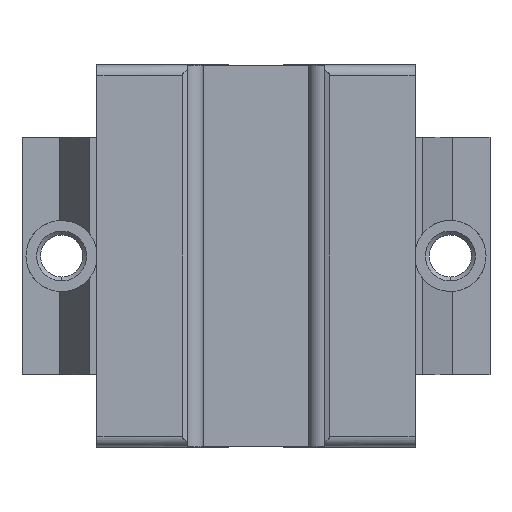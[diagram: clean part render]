
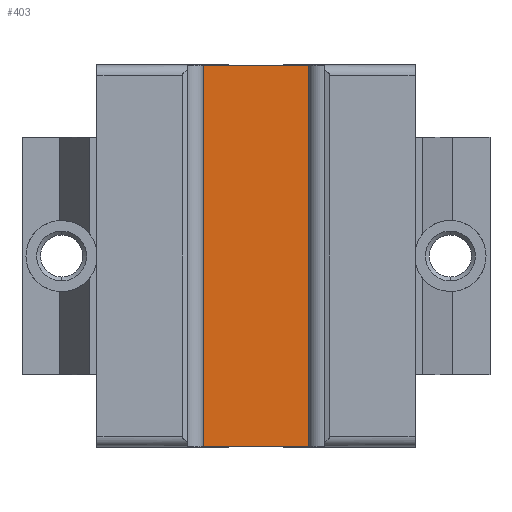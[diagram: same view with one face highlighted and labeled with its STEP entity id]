
A CAD part, front view. The second image highlights one B-rep face of the part: STEP entity #403.
In plain terms, the highlighted planar face has unit normal (0, -1, 0).
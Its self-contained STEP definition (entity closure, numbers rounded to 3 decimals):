
#336 = ORIENTED_EDGE ( 'NONE', *, *, #3145, .T. ) ;
#382 = ORIENTED_EDGE ( 'NONE', *, *, #996, .F. ) ;
#387 = EDGE_LOOP ( 'NONE', ( #394, #336, #401, #382 ) ) ;
#394 = ORIENTED_EDGE ( 'NONE', *, *, #402, .T. ) ;
#400 = EDGE_CURVE ( 'NONE', #1016, #3246, #8345, .T. ) ;
#401 = ORIENTED_EDGE ( 'NONE', *, *, #400, .F. ) ;
#402 = EDGE_CURVE ( 'NONE', #1006, #3146, #8336, .T. ) ;
#403 = ADVANCED_FACE ( 'NONE', ( #8332 ), #8330, .F. ) ;
#996 = EDGE_CURVE ( 'NONE', #1006, #1016, #7548, .T. ) ;
#1006 = VERTEX_POINT ( 'NONE', #7531 ) ;
#1016 = VERTEX_POINT ( 'NONE', #7520 ) ;
#3145 = EDGE_CURVE ( 'NONE', #3146, #3246, #4476, .T. ) ;
#3146 = VERTEX_POINT ( 'NONE', #4480 ) ;
#3246 = VERTEX_POINT ( 'NONE', #4793 ) ;
#4466 = VECTOR ( 'NONE', #4467, 1000. ) ;
#4467 = DIRECTION ( 'NONE',  ( -1., 0., 0. ) ) ;
#4476 = LINE ( 'NONE', #4479, #4466 ) ;
#4479 = CARTESIAN_POINT ( 'NONE',  ( 7.259, -7.695, 24.05 ) ) ;
#4480 = CARTESIAN_POINT ( 'NONE',  ( 7.259, -7.695, 24.05 ) ) ;
#4793 = CARTESIAN_POINT ( 'NONE',  ( -7.251, -7.695, 24.05 ) ) ;
#7520 = CARTESIAN_POINT ( 'NONE',  ( -7.251, -7.695, -24.05 ) ) ;
#7531 = CARTESIAN_POINT ( 'NONE',  ( 7.259, -7.695, -24.05 ) ) ;
#7538 = DIRECTION ( 'NONE',  ( -1., 0., 0. ) ) ;
#7542 = VECTOR ( 'NONE', #7538, 1000. ) ;
#7543 = CARTESIAN_POINT ( 'NONE',  ( -20.1, -7.695, -24.05 ) ) ;
#7548 = LINE ( 'NONE', #7543, #7542 ) ;
#8330 = PLANE ( 'NONE',  #8341 ) ;
#8332 = FACE_OUTER_BOUND ( 'NONE', #387, .T. ) ;
#8333 = DIRECTION ( 'NONE',  ( 0., 0., 1. ) ) ;
#8334 = VECTOR ( 'NONE', #8333, 1000. ) ;
#8335 = CARTESIAN_POINT ( 'NONE',  ( 7.259, -7.695, -24.1 ) ) ;
#8336 = LINE ( 'NONE', #8335, #8334 ) ;
#8338 = DIRECTION ( 'NONE',  ( -1., 0., 0. ) ) ;
#8339 = DIRECTION ( 'NONE',  ( 0., 1., 0. ) ) ;
#8340 = CARTESIAN_POINT ( 'NONE',  ( 7.259, -7.695, -24.1 ) ) ;
#8341 = AXIS2_PLACEMENT_3D ( 'NONE', #8340, #8339, #8338 ) ;
#8345 = LINE ( 'NONE', #8352, #8351 ) ;
#8350 = DIRECTION ( 'NONE',  ( 0., 0., 1. ) ) ;
#8351 = VECTOR ( 'NONE', #8350, 1000. ) ;
#8352 = CARTESIAN_POINT ( 'NONE',  ( -7.251, -7.695, -24.1 ) ) ;
